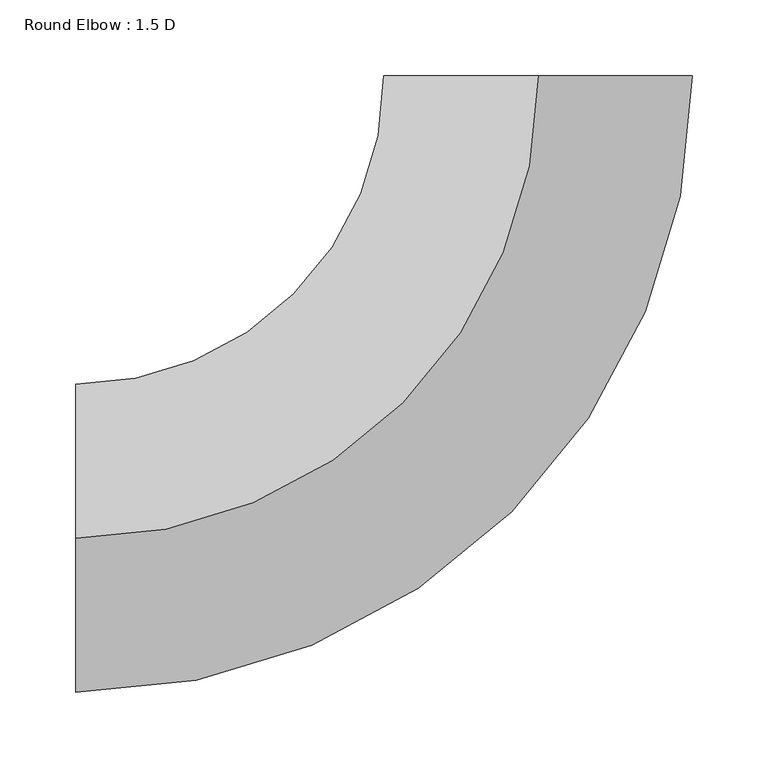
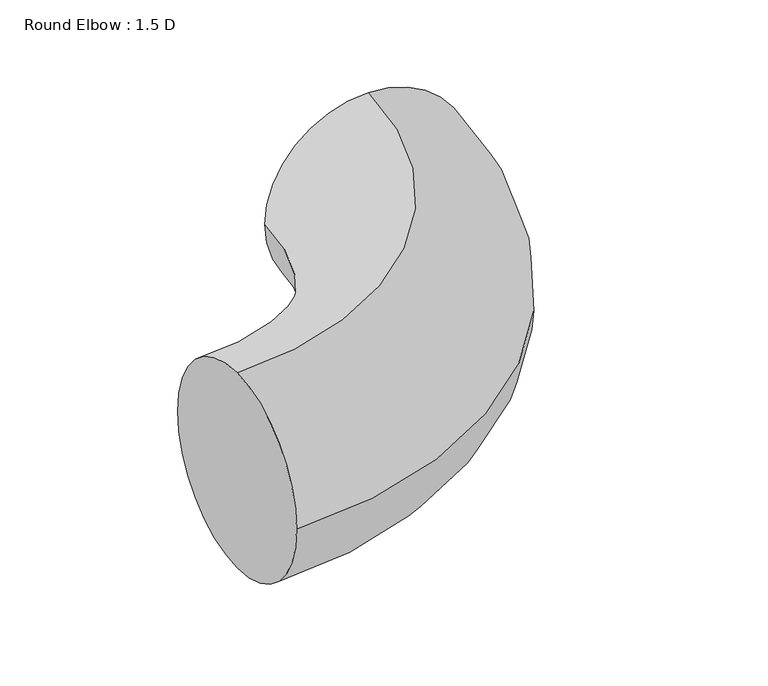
"""IFC4 building model written with IfcOpenShell, lengths in millimetres: duct fitting geometry, Round Elbow : 1.5 D."""

from ifc_helpers import new_model, si_unit, point, frame, origin, place, context, project, spatial, circle_curve, ellipse_curve, trimmed, source, transform, mapped, element, save
from ifc_brep_helpers import plane_surface, revolved_surface, advanced_brep


def round_elbow_1_5_d_83134554(model_context):
    return source(origin(), model_context, "Body", "AdvancedBrep", [
        advanced_brep(
        [(-304.8, 0.0, 101.6), (-304.8, 101.6, 0.0), (-304.8, 0.0, -101.6), (-304.8, -101.6, 0.0), (0.0, 304.8, 101.6), (101.6, 304.8, 0.0), (0.0, 304.8, -101.6), (-101.6, 304.8, 0.0)],
        [
            (0, 1, circle_curve(frame((-304.8, 0.0, 0.0), z_axis=(-1.0, 0.0, 0.0), x_axis=(0.0, 1.0, 0.0)), 101.6)),
            (1, 2, circle_curve(frame((-304.8, 0.0, 0.0), z_axis=(-1.0, 0.0, 0.0), x_axis=(0.0, 1.0, 0.0)), 101.6)),
            (2, 3, circle_curve(frame((-304.8, 0.0, 0.0), z_axis=(-1.0, 0.0, 0.0), x_axis=(0.0, 1.0, 0.0)), 101.6)),
            (3, 0, circle_curve(frame((-304.8, 0.0, 0.0), z_axis=(-1.0, 0.0, 0.0), x_axis=(0.0, 1.0, 0.0)), 101.6)),
            (4, 5, circle_curve(frame((0.0, 304.8, 0.0), z_axis=(0.0, 1.0, 0.0), x_axis=(-1.0, 0.0, 0.0)), 101.6)),
            (5, 6, circle_curve(frame((0.0, 304.8, 0.0), z_axis=(0.0, 1.0, 0.0), x_axis=(-1.0, 0.0, 0.0)), 101.6)),
            (6, 7, circle_curve(frame((0.0, 304.8, 0.0), z_axis=(0.0, 1.0, 0.0), x_axis=(-1.0, 0.0, 0.0)), 101.6)),
            (7, 4, circle_curve(frame((0.0, 304.8, 0.0), z_axis=(0.0, 1.0, 0.0), x_axis=(-1.0, 0.0, 0.0)), 101.6)),
            (7, 1, circle_curve(frame((-304.8, 304.8, 0.0), z_axis=(0.0, 0.0, -1.0), x_axis=(0.0, -1.0, 0.0)), 203.2)),
            (0, 4, circle_curve(frame((-304.8, 304.8, 101.6), z_axis=(0.0, 0.0, 1.0), x_axis=(0.0, -1.0, 0.0)), 304.8)),
            (6, 2, circle_curve(frame((-304.8, 304.8, -101.6), z_axis=(0.0, 0.0, -1.0), x_axis=(0.0, -1.0, 0.0)), 304.8)),
            (5, 3, circle_curve(frame((-304.8, 304.8, 0.0), z_axis=(0.0, 0.0, -1.0), x_axis=(0.0, -1.0, 0.0)), 406.4)),
        ],
        [
            plane_surface(frame((-304.8, 0.0, 0.0), z_axis=(-1.0, 0.0, 0.0), x_axis=(0.0, 0.0, 1.0))),
            plane_surface(frame((0.0, 304.8, 0.0), z_axis=(0.0, 1.0, 0.0), x_axis=(0.0, 0.0, 1.0))),
            revolved_surface(trimmed(ellipse_curve(frame((-304.8, 0.0, 0.0), z_axis=(-1.0, 0.0, 0.0), x_axis=(0.0, 1.0, 0.0)), 101.6, 101.6), [point((-304.8, 0.0, 101.6))], [point((-304.8, 101.6, 0.0))], True, "CARTESIAN"), (-304.8, 304.8, 0.0), (0.0, 0.0, 1.0)),
            revolved_surface(trimmed(ellipse_curve(frame((-304.8, 0.0, 0.0), z_axis=(-1.0, 0.0, 0.0), x_axis=(0.0, 1.0, 0.0)), 101.6, 101.6), [point((-304.8, 101.6, 0.0))], [point((-304.8, 0.0, -101.6))], True, "CARTESIAN"), (-304.8, 304.8, 0.0), (0.0, 0.0, 1.0)),
            revolved_surface(trimmed(ellipse_curve(frame((-304.8, 0.0, 0.0), z_axis=(-1.0, 0.0, 0.0), x_axis=(0.0, 1.0, 0.0)), 101.6, 101.6), [point((-304.8, 0.0, -101.6))], [point((-304.8, -101.6, 0.0))], True, "CARTESIAN"), (-304.8, 304.8, 0.0), (0.0, 0.0, 1.0)),
            revolved_surface(trimmed(ellipse_curve(frame((-304.8, 0.0, 0.0), z_axis=(-1.0, 0.0, 0.0), x_axis=(0.0, 1.0, 0.0)), 101.6, 101.6), [point((-304.8, -101.6, 0.0))], [point((-304.8, 0.0, 101.6))], True, "CARTESIAN"), (-304.8, 304.8, 0.0), (0.0, 0.0, 1.0)),
        ],
        [
            (0, [[1, 2, 3, 4]]),
            (1, [[5, 6, 7, 8]]),
            (2, [[9, -1, 10, -8]]),
            (3, [[11, -2, -9, -7]]),
            (4, [[12, -3, -11, -6]]),
            (5, [[-10, -4, -12, -5]]),
        ],
    ),
    ])


if __name__ == "__main__":
    model = new_model("IFC4")
    model_context = context("Model", 3, world=origin())
    ifc_project = project(units=[si_unit("LENGTHUNIT", "METRE", prefix="MILLI")], contexts=[model_context])
    site = spatial("IfcSite", under=ifc_project)
    building = spatial("IfcBuilding", under=site)
    placement = place(None, origin())
    round_elbow_1_5_d_shape = round_elbow_1_5_d_83134554(model_context)
    element("IfcDuctFitting", 1, ObjectType="Round Elbow : 1.5 D", at=placement, inside=building, context=model_context, shape_type="MappedRepresentation", body=[
        mapped(round_elbow_1_5_d_shape, transform((0.0, 0.0, 0.0), x_axis=(1.0, 0.0, 0.0), y_axis=(0.0, 1.0, 0.0), z_axis=(0.0, 0.0, 1.0))),
    ])
    save(model, "model.ifc")
